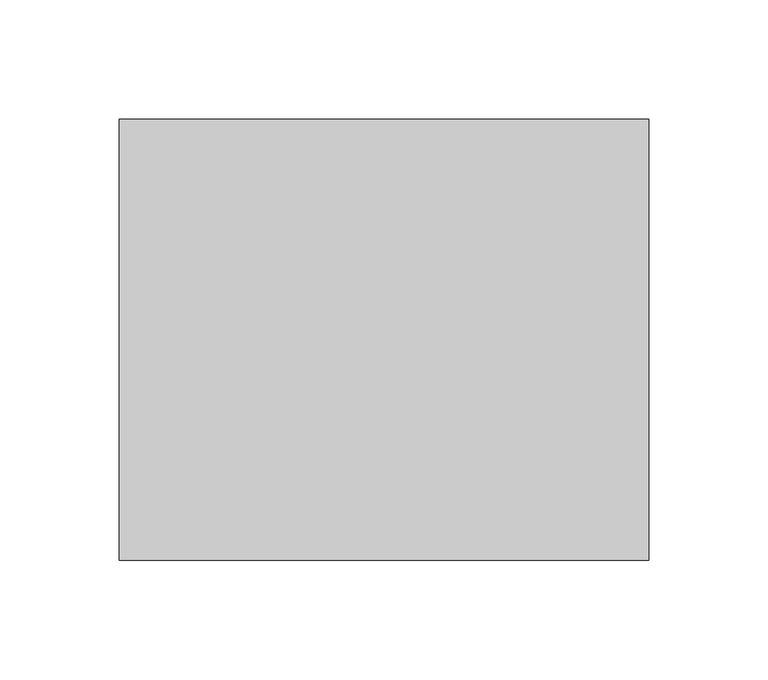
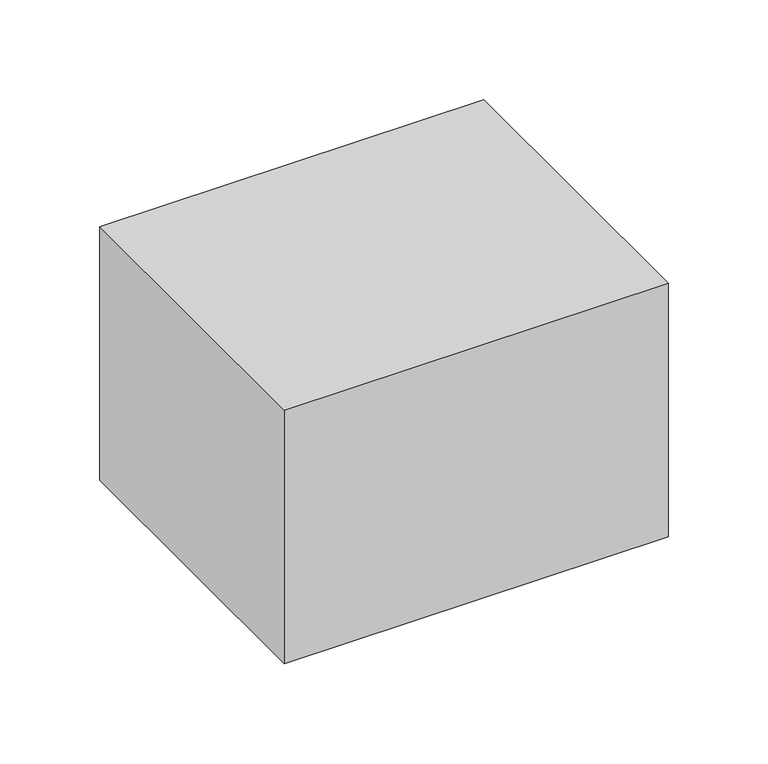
"""IFC4 building model written with IfcOpenShell, lengths in millimetres: light fixture geometry,  211 :  212031."""

from ifc_helpers import new_model, si_unit, frame, origin, place, context, project, spatial, polyline, outline, extrude, source, transform, mapped, element, save


def light_fixture_7529da5c(model_context):
    return source(origin(), model_context, "Body", "SweptSolid", [
        extrude(outline(polyline([(-533.2663489, 16661.5121745), (-533.2663489, 16476.5121745), (-755.2663489, 16476.5121745), (-755.2663489, 16661.5121745), (-533.2663489, 16661.5121745)])), frame((0.0, 0.0, 1375.0), z_axis=(0.0, 0.0, 1.0), x_axis=(1.0, 0.0, 0.0)), (0.0, 0.0, 1.0), 155.0),
    ])


if __name__ == "__main__":
    model = new_model("IFC4")
    model_context = context("Model", 3, world=origin())
    ifc_project = project(units=[si_unit("LENGTHUNIT", "METRE", prefix="MILLI")], contexts=[model_context])
    site = spatial("IfcSite", under=ifc_project)
    building = spatial("IfcBuilding", under=site)
    placement = place(None, origin())
    light_fixture_shape = light_fixture_7529da5c(model_context)
    element("IfcLightFixture", 1, ObjectType=" 211 :  212031", at=placement, inside=building, context=model_context, shape_type="MappedRepresentation", body=[
        mapped(light_fixture_shape, transform((0.0, 0.0, 0.0), x_axis=(1.0, 0.0, 0.0), y_axis=(0.0, 1.0, 0.0), z_axis=(0.0, 0.0, 1.0))),
    ])
    save(model, "model.ifc")
